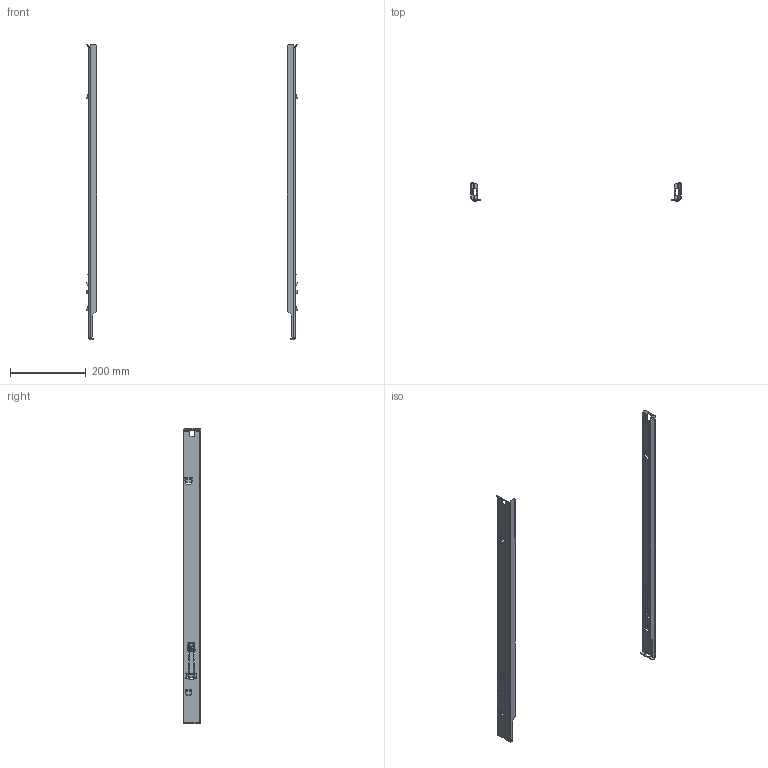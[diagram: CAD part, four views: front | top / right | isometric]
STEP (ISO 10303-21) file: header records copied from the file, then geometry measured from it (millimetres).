
FILE_DESCRIPTION((''),'2;1');
FILE_NAME('C33167_PAIR_231128_ASM','2024-02-21T14:07:56',('juliahuynh'),(''),'CREO PARAMETRIC BY PTC INC, 2022281','CREO PARAMETRIC BY PTC INC, 2022281','');
FILE_SCHEMA(('CONFIG_CONTROL_DESIGN'));
Length unit declared in the file: millimetre
Products named in the file (6): C33167_LH_1_231128; C32615_AF4_1_231128; C33167_LH_ASM_1_231128_ASM; C33167_RH_1_231128; C32615_AF5_1_231128; C33167_PAIR_231128_ASM
Assembly tree (5 placements, depth 3):
  C33167_PAIR_231128_ASM
    C33167_LH_ASM_1_231128_ASM
      C33167_LH_1_231128
      C32615_AF4_1_231128
    C33167_RH_1_231128
    C32615_AF5_1_231128
Bounding box: 556.01 x 46.45 x 778.86 mm (x, y, z)
Volume: 192278 mm3; surface area: 204721.4 mm2
Topology: 4 solids, 4 shells, 854 faces, 2134 edges, 1272 vertices
Faces by surface type: plane 562, cylinder 276, bspline 12, sphere 4
Entity records: 26233 total; most frequent: CARTESIAN_POINT 5573, DIRECTION 4342, ORIENTED_EDGE 4260, EDGE_CURVE 2130, VECTOR 1544, LINE 1544, AXIS2_PLACEMENT_3D 1399, VERTEX_POINT 1272
